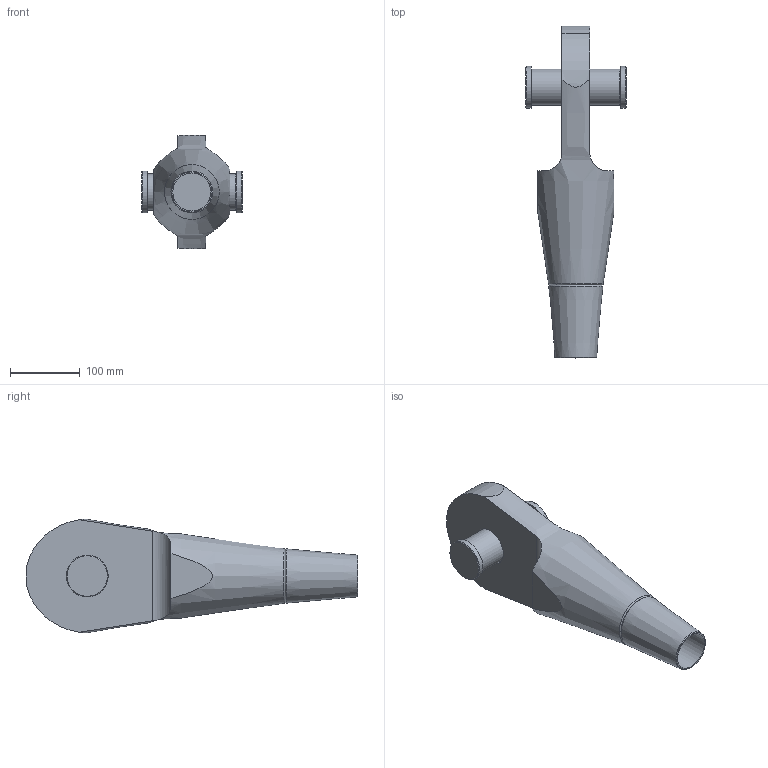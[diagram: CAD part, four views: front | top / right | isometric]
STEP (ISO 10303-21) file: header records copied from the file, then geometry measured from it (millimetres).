
FILE_DESCRIPTION(/* description */ (''),/* implementation_level */ '2;1');
FILE_NAME(/* name */ 'G:\Engineering\700 CAD\Internet-PX-1-step-igs-dxf\520-OES-Arbeitsdateien\520-052-OES.stp',/* time_stamp */ '2020-06-26T10:35:27+02:00',/* author */ ('schwarz'),/* organization */ (''),/* preprocessor_version */ 'ST-DEVELOPER v16.1',/* originating_system */ 'Autodesk Inventor 2016',/* authorisation */ '');
FILE_SCHEMA (('AUTOMOTIVE_DESIGN { 1 0 10303 214 3 1 1 }'));
Length unit declared in the file: centimetre
Products named in the file (1): 520-052-OES-KMU-Kunde
Bounding box: 144.44 x 475.77 x 162.59 mm (x, y, z)
Volume: 2942631.5 mm3; surface area: 207182.9 mm2
Topology: 2 solids, 4 shells, 49 faces, 109 edges, 71 vertices
Faces by surface type: plane 22, cylinder 14, cone 12, torus 1
Full cylindrical faces by diameter (mm): 10.106 x1, 12 x1, 13.5 x1, 23.12 x1, 52 x1, 54.5 x1, 55 x1, 60 x2
Entity records: 1384 total; most frequent: CARTESIAN_POINT 344, DIRECTION 198, ORIENTED_EDGE 158, AXIS2_PLACEMENT_3D 89, EDGE_CURVE 79, EDGE_LOOP 78, VERTEX_POINT 63, STYLED_ITEM 51
